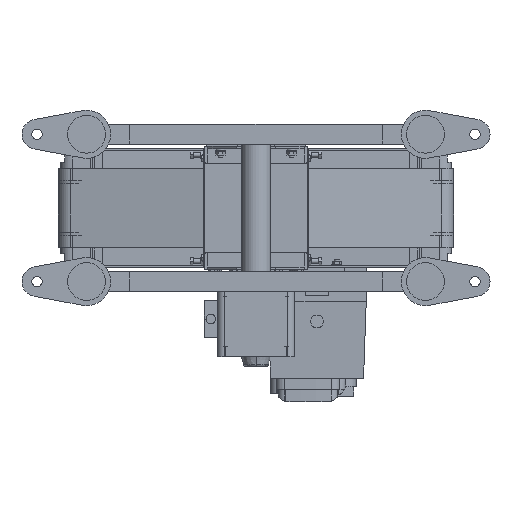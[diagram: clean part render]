
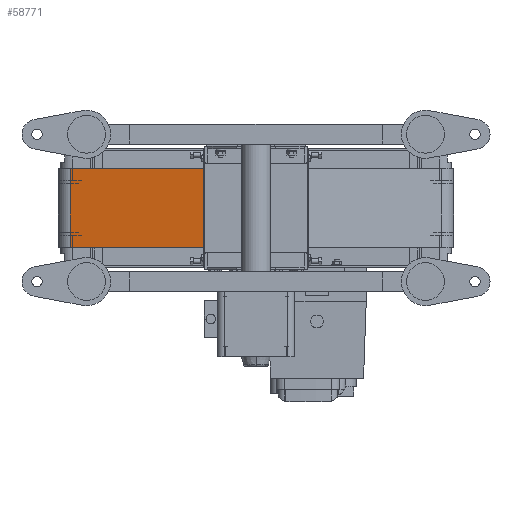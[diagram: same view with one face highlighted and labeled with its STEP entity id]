
A CAD part, front view. The second image highlights one B-rep face of the part: STEP entity #58771.
In plain terms, the highlighted planar face has unit normal (-0.176, -0.984, 0).
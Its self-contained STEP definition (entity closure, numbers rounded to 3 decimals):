
#4916 = ORIENTED_EDGE ( 'NONE', *, *, #11730, .F. ) ;
#5178 = CARTESIAN_POINT ( 'NONE',  ( 14.409, -33.936, 50. ) ) ;
#7010 = VERTEX_POINT ( 'NONE', #73790 ) ;
#8560 = VECTOR ( 'NONE', #15903, 1000. ) ;
#8643 = AXIS2_PLACEMENT_3D ( 'NONE', #22937, #10623, #66705 ) ;
#9575 = CARTESIAN_POINT ( 'NONE',  ( 217.987, -70.264, -50. ) ) ;
#10084 = ORIENTED_EDGE ( 'NONE', *, *, #13340, .F. ) ;
#10623 = DIRECTION ( 'NONE',  ( 0.176, 0.984, 0. ) ) ;
#11351 = CARTESIAN_POINT ( 'NONE',  ( 14.409, -33.936, 50. ) ) ;
#11667 = CARTESIAN_POINT ( 'NONE',  ( 14.409, -33.936, -50. ) ) ;
#11730 = EDGE_CURVE ( 'NONE', #25671, #14484, #75834, .T. ) ;
#12203 = ORIENTED_EDGE ( 'NONE', *, *, #71672, .T. ) ;
#13340 = EDGE_CURVE ( 'NONE', #7010, #25671, #55567, .T. ) ;
#14390 = CARTESIAN_POINT ( 'NONE',  ( 217.987, -70.264, 50. ) ) ;
#14484 = VERTEX_POINT ( 'NONE', #9575 ) ;
#15903 = DIRECTION ( 'NONE',  ( 0.984, -0.176, 0. ) ) ;
#22346 = VECTOR ( 'NONE', #73259, 1000. ) ;
#22591 = EDGE_CURVE ( 'NONE', #7010, #70705, #52252, .T. ) ;
#22872 = VECTOR ( 'NONE', #75966, 1000. ) ;
#22937 = CARTESIAN_POINT ( 'NONE',  ( 14.409, -33.936, 50. ) ) ;
#25671 = VERTEX_POINT ( 'NONE', #14390 ) ;
#29740 = PLANE ( 'NONE',  #8643 ) ;
#47327 = FACE_OUTER_BOUND ( 'NONE', #65860, .T. ) ;
#52252 = LINE ( 'NONE', #5178, #53200 ) ;
#53200 = VECTOR ( 'NONE', #63096, 1000. ) ;
#55567 = LINE ( 'NONE', #11351, #22346 ) ;
#58771 = ADVANCED_FACE ( 'NONE', ( #47327 ), #29740, .F. ) ;
#63096 = DIRECTION ( 'NONE',  ( 0., 0., -1. ) ) ;
#65860 = EDGE_LOOP ( 'NONE', ( #12203, #4916, #10084, #74559 ) ) ;
#66371 = LINE ( 'NONE', #78278, #8560 ) ;
#66705 = DIRECTION ( 'NONE',  ( -0.984, 0.176, 0. ) ) ;
#69362 = CARTESIAN_POINT ( 'NONE',  ( 217.987, -70.264, 50. ) ) ;
#70705 = VERTEX_POINT ( 'NONE', #11667 ) ;
#71672 = EDGE_CURVE ( 'NONE', #70705, #14484, #66371, .T. ) ;
#73259 = DIRECTION ( 'NONE',  ( 0.984, -0.176, 0. ) ) ;
#73790 = CARTESIAN_POINT ( 'NONE',  ( 14.409, -33.936, 50. ) ) ;
#74559 = ORIENTED_EDGE ( 'NONE', *, *, #22591, .T. ) ;
#75834 = LINE ( 'NONE', #69362, #22872 ) ;
#75966 = DIRECTION ( 'NONE',  ( 0., 0., -1. ) ) ;
#78278 = CARTESIAN_POINT ( 'NONE',  ( 14.409, -33.936, -50. ) ) ;
